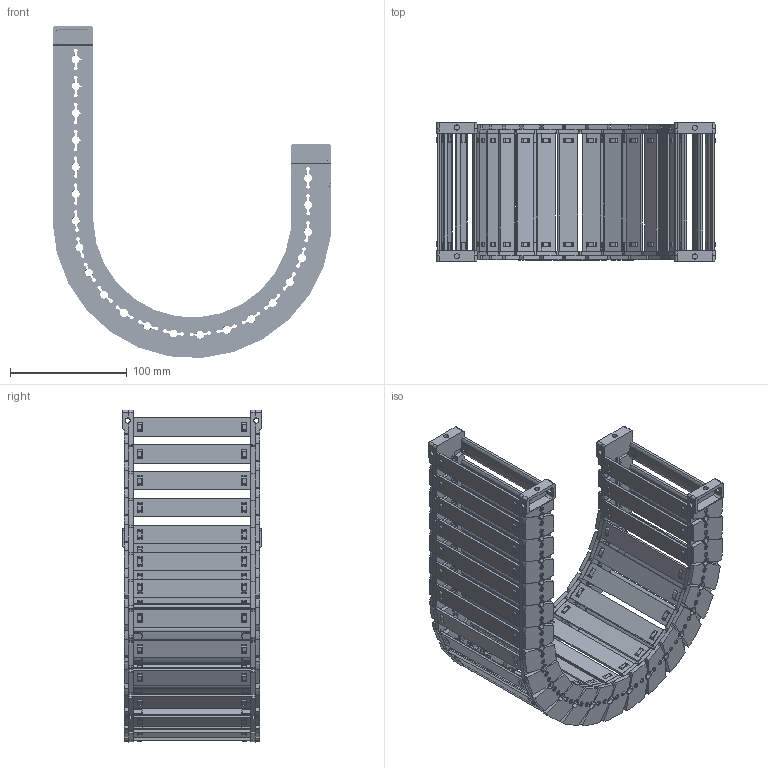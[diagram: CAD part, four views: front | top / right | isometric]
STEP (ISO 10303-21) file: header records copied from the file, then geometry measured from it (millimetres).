
FILE_DESCRIPTION((''),'2;1');
FILE_NAME('JY-28X100-R100_ASM','2026-05-07T14:49:03',('admin'),(''),'CREO PARAMETRIC BY PTC INC, 2021023','CREO PARAMETRIC BY PTC INC, 2021023','');
FILE_SCHEMA(('CONFIG_CONTROL_DESIGN'));
Length unit declared in the file: millimetre
Products named in the file (11): 28XL-L; 25-35XL-YP; 28XL-R; ASM0001_ASM; 28-LTT-A-L; 28-LTT-A-R; 28XL-LTT-A_ASM; 28-LTT-B-L; 28-LTT-B-R; 28XL-LTT-B_ASM; JY-28X100-R100_ASM
Assembly tree (35 placements, depth 3):
  JY-28X100-R100_ASM
    ASM0001_ASM  x21
      28XL-L
      25-35XL-YP
      28XL-R
    28XL-LTT-A_ASM
      28-LTT-A-L
      25-35XL-YP  x2
      28-LTT-A-R
    28XL-LTT-B_ASM
      28-LTT-B-L
      25-35XL-YP  x2
      28-LTT-B-R
Bounding box: 238.21 x 119 x 283.78 mm (x, y, z)
Volume: 469288.8 mm3; surface area: 337816.5 mm2
Topology: 92 solids, 92 shells, 7454 faces, 22156 edges, 14794 vertices
Faces by surface type: plane 4887, cone 1339, cylinder 1072, bspline 156
Entity records: 29119 total; most frequent: CARTESIAN_POINT 9493, ORIENTED_EDGE 4352, DIRECTION 3661, EDGE_CURVE 2176, VERTEX_POINT 1454, VECTOR 1365, LINE 1365, AXIS2_PLACEMENT_3D 1148
